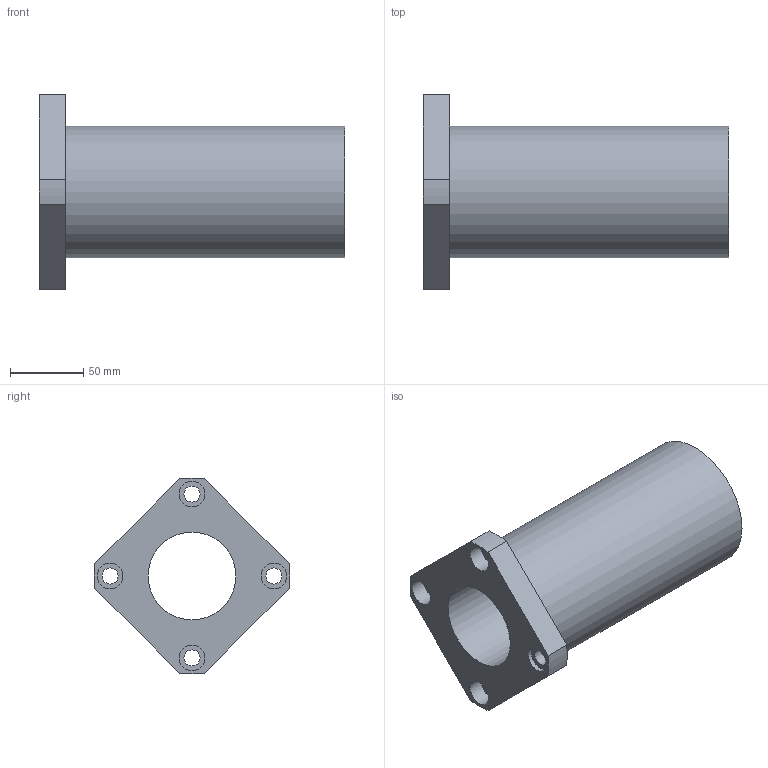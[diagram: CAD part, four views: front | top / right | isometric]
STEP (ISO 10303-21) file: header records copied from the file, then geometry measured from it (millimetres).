
FILE_DESCRIPTION( ( 'STEP AP203' ), '1' );
FILE_NAME( 'p:/temp/worker_11/temp/exporttempdir_2968_2288_Oln9Z/format_0/LMEK60LUU.stp', '2020-05-07T07:03:11', ( 'License CC BY-ND 4.0' ), ( 'CADENAS' ), ' ', 'PARTsolutions', ' ' );
FILE_SCHEMA( ( 'CONFIG_CONTROL_DESIGN' ) );
Length unit declared in the file: millimetre
Products named in the file (1): _LMEK60LUU
Bounding box: 209 x 133.88 x 133.88 mm (x, y, z)
Volume: 809643.1 mm3; surface area: 119270 mm2
Topology: 1 solids, 1 shells, 25 faces, 55 edges, 37 vertices
Faces by surface type: cylinder 14, plane 11
Full cylindrical faces by diameter (mm): 11 x4, 17.5 x4, 60 x1, 90 x1
Entity records: 710 total; most frequent: DIRECTION 124, CARTESIAN_POINT 106, ORIENTED_EDGE 88, AXIS2_PLACEMENT_3D 54, EDGE_LOOP 50, EDGE_CURVE 44, VERTEX_POINT 36, FACE_OUTER_BOUND 35
